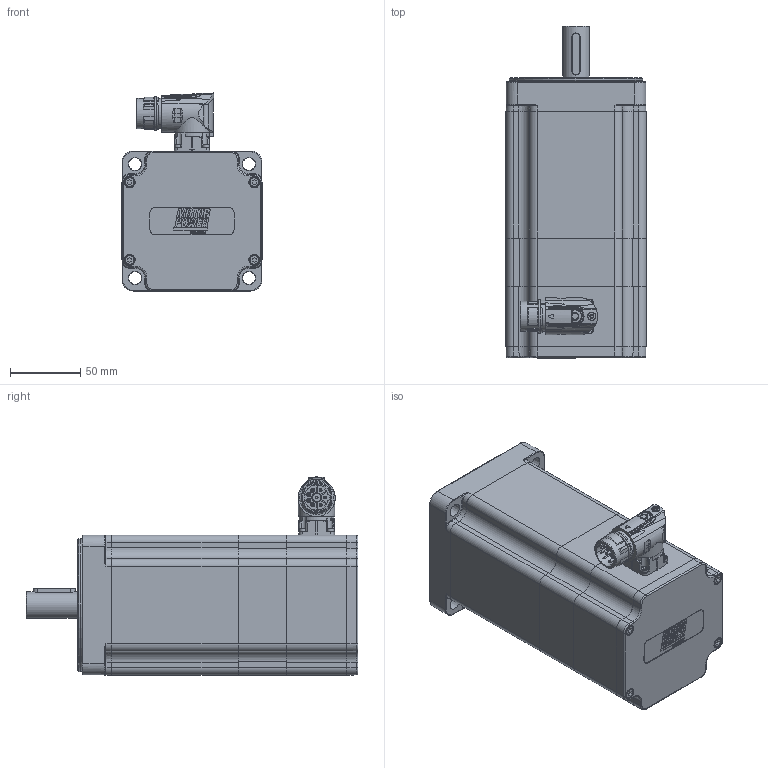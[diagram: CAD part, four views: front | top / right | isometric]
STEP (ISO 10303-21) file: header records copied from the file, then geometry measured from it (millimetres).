
FILE_DESCRIPTION(/* description */ ('Unknown'),/* implementation_level */ '2;1');
FILE_NAME(/* name */ 'TC4-100.4A.XX.X.2.M1.1.1.C21.31.80 Q0BQ19',/* time_stamp */ '2026-03-04T16:54:26+01:00',/* author */ ('Unknown'),/* organization */ ('Unknown'),/* preprocessor_version */ 'ST-DEVELOPER v19.4',/* originating_system */ 'Solid Edge',/* authorisation */ 'Unknown');
FILE_SCHEMA (('AUTOMOTIVE_DESIGN {1 0 10303 214 3 1 1}'));
Products named in the file (14): Q0BQ19 4A FRENO M1 VUOTO; 003107003287; 005911000185; 005911000211; 003003200459; 003103040222; 005119000312; 003155002195; 005911000208; 007117000456; 003151003168; 003251040721; 005911000252; 005113000500
Assembly tree (25 placements, depth 2):
  Q0BQ19 4A FRENO M1 VUOTO
    003107003287
    005911000185  x4
    005911000211  x4
    003003200459
    003103040222
    005119000312
    003155002195
    005911000208  x4
    007117000456
    003151003168
    003251040721
    005911000252  x4
    005113000500
Bounding box: 100 x 237 x 141.5 mm (x, y, z)
Volume: 718579.7 mm3; surface area: 264476.9 mm2
Topology: 27 solids, 27 shells, 1826 faces, 4524 edges, 2880 vertices
Faces by surface type: plane 853, cylinder 414, bspline 228, cone 183, torus 98, sphere 50
Full cylindrical faces by diameter (mm): 1 x4, 1.4 x4, 2 x4, 2.013 x4, 2.459 x2, 2.5 x4, 2.8 x4, 3 x8, 3.2 x1, 3.242 x46, 3.3 x1, 4 x13, 4.5 x17, 4.7 x4, 4.917 x1, 5.5 x1, 5.8 x1, 5.9 x1, 6 x1, 6.4 x1, 6.8 x1, 7 x12, 8 x10, 8.004 x4, 10 x1, 16 x1, 16.99 x1, 17 x1, 17.4 x1, 19 x1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
Entity records: 63686 total; most frequent: CARTESIAN_POINT 16698, ORIENTED_EDGE 7396, DIRECTION 6970, EDGE_CURVE 3698, AXIS2_PLACEMENT_3D 2625, VERTEX_POINT 2555, FACE_BOUND 2191, EDGE_LOOP 2163
